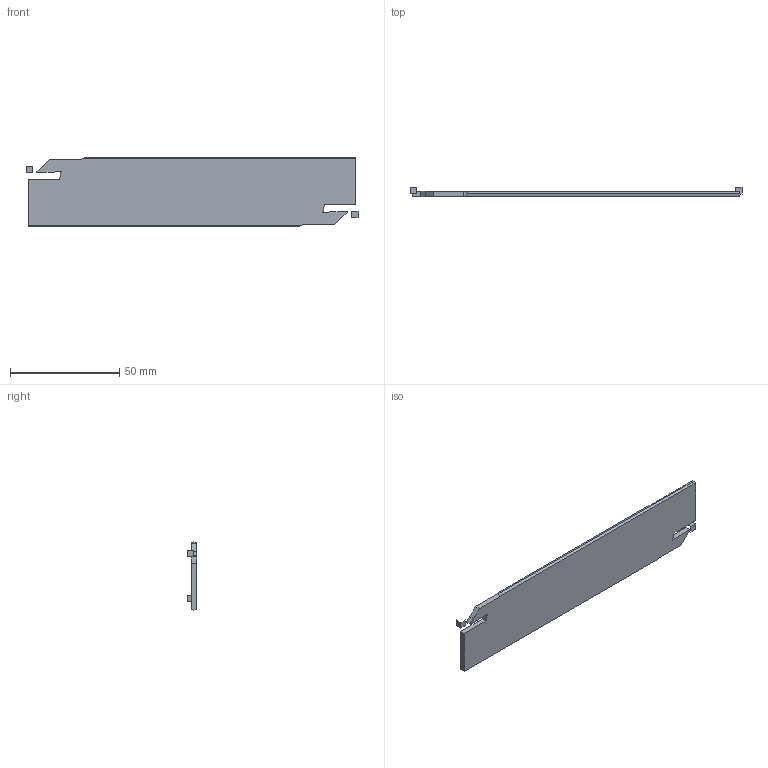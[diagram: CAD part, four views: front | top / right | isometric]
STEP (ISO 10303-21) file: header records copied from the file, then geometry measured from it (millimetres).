
FILE_DESCRIPTION(('CATIA V5 STEP Exchange'),'2;1');
FILE_NAME('N:\data\isr\design\admin8\archives\APPROVED_VAULT\FOR_VAULT6\WORKING\75015968_0_HGFH\HGFH 32-3\3D\HGFH 32-3.stp','2006-10-05T13:51:54+00:00',('none'),('none'),'CATIA Version 5 Release 15 (IN-10)','CATIA V5 STEP AP203','none');
FILE_SCHEMA(('CONFIG_CONTROL_DESIGN'));
Length unit declared in the file: millimetre
Products named in the file (1): PART1
Bounding box: 152 x 4.19 x 31.36 mm (x, y, z)
Volume: 10590.1 mm3; surface area: 9841.8 mm2
Topology: 1 solids, 3 shells, 30 faces, 84 edges, 58 vertices
Faces by surface type: plane 26, cylinder 4
Entity records: 983 total; most frequent: CARTESIAN_POINT 188, ORIENTED_EDGE 156, DIRECTION 134, EDGE_CURVE 84, VECTOR 72, LINE 72, VERTEX_POINT 58, AXIS2_PLACEMENT_3D 36
